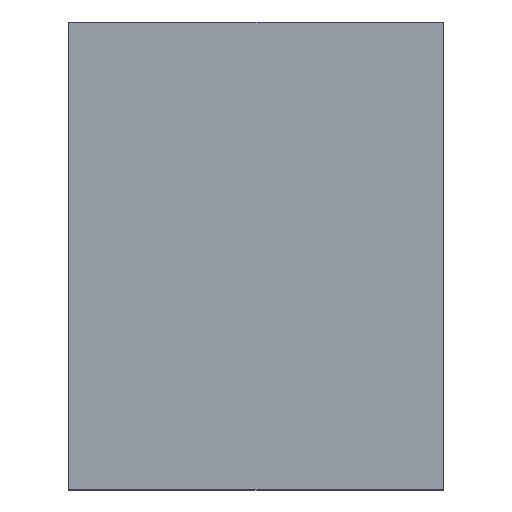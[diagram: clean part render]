
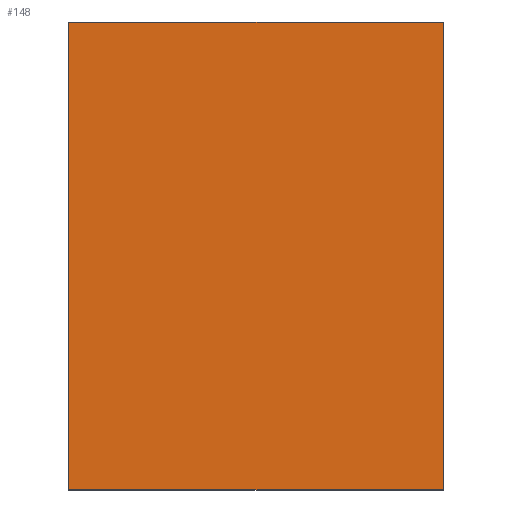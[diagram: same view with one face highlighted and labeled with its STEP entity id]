
A CAD part, left-side view. The second image highlights one B-rep face of the part: STEP entity #148.
In plain terms, the highlighted planar face has unit normal (-1, 0, 0).
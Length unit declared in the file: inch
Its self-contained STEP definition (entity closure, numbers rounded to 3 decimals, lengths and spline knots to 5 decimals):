
#8 = DIRECTION ( 'NONE',  ( 0., -1., 0. ) ) ;
#11 = FACE_OUTER_BOUND ( 'NONE', #190, .T. ) ;
#13 = CARTESIAN_POINT ( 'NONE',  ( -0.75, 0., 0.25 ) ) ;
#33 = ORIENTED_EDGE ( 'NONE', *, *, #220, .T. ) ;
#42 = VERTEX_POINT ( 'NONE', #73 ) ;
#47 = CARTESIAN_POINT ( 'NONE',  ( -0.75, 0.4, 0.25 ) ) ;
#54 = EDGE_CURVE ( 'NONE', #99, #42, #102, .T. ) ;
#60 = VERTEX_POINT ( 'NONE', #137 ) ;
#63 = EDGE_CURVE ( 'NONE', #42, #169, #153, .T. ) ;
#68 = LINE ( 'NONE', #224, #98 ) ;
#73 = CARTESIAN_POINT ( 'NONE',  ( -0.75, 0.4, 0.25 ) ) ;
#84 = DIRECTION ( 'NONE',  ( 0., 0., -1. ) ) ;
#90 = VECTOR ( 'NONE', #8, 39.37008 ) ;
#98 = VECTOR ( 'NONE', #173, 39.37008 ) ;
#99 = VERTEX_POINT ( 'NONE', #119 ) ;
#102 = LINE ( 'NONE', #128, #192 ) ;
#106 = DIRECTION ( 'NONE',  ( 1., 0., 0. ) ) ;
#116 = VECTOR ( 'NONE', #118, 39.37008 ) ;
#118 = DIRECTION ( 'NONE',  ( 0., -1., 0. ) ) ;
#119 = CARTESIAN_POINT ( 'NONE',  ( -0.75, 0.4, -0.25 ) ) ;
#128 = CARTESIAN_POINT ( 'NONE',  ( -0.75, 0.4, 0.25 ) ) ;
#136 = ORIENTED_EDGE ( 'NONE', *, *, #63, .F. ) ;
#137 = CARTESIAN_POINT ( 'NONE',  ( -0.75, 0., -0.25 ) ) ;
#148 = ADVANCED_FACE ( 'NONE', ( #11 ), #161, .F. ) ;
#153 = LINE ( 'NONE', #47, #90 ) ;
#154 = ORIENTED_EDGE ( 'NONE', *, *, #54, .F. ) ;
#161 = PLANE ( 'NONE',  #180 ) ;
#164 = DIRECTION ( 'NONE',  ( 0., 0., 1. ) ) ;
#169 = VERTEX_POINT ( 'NONE', #13 ) ;
#173 = DIRECTION ( 'NONE',  ( 0., 0., 1. ) ) ;
#180 = AXIS2_PLACEMENT_3D ( 'NONE', #212, #106, #84 ) ;
#189 = LINE ( 'NONE', #225, #116 ) ;
#190 = EDGE_LOOP ( 'NONE', ( #197, #136, #154, #33 ) ) ;
#192 = VECTOR ( 'NONE', #164, 39.37008 ) ;
#197 = ORIENTED_EDGE ( 'NONE', *, *, #236, .T. ) ;
#212 = CARTESIAN_POINT ( 'NONE',  ( -0.75, 0.4, 0.25 ) ) ;
#220 = EDGE_CURVE ( 'NONE', #99, #60, #189, .T. ) ;
#224 = CARTESIAN_POINT ( 'NONE',  ( -0.75, 0., 0.25 ) ) ;
#225 = CARTESIAN_POINT ( 'NONE',  ( -0.75, 0.4, -0.25 ) ) ;
#236 = EDGE_CURVE ( 'NONE', #60, #169, #68, .T. ) ;
